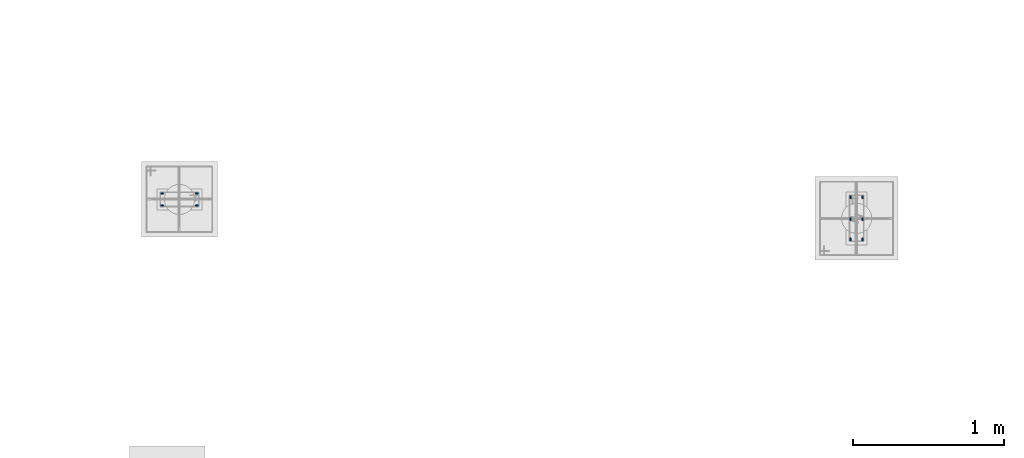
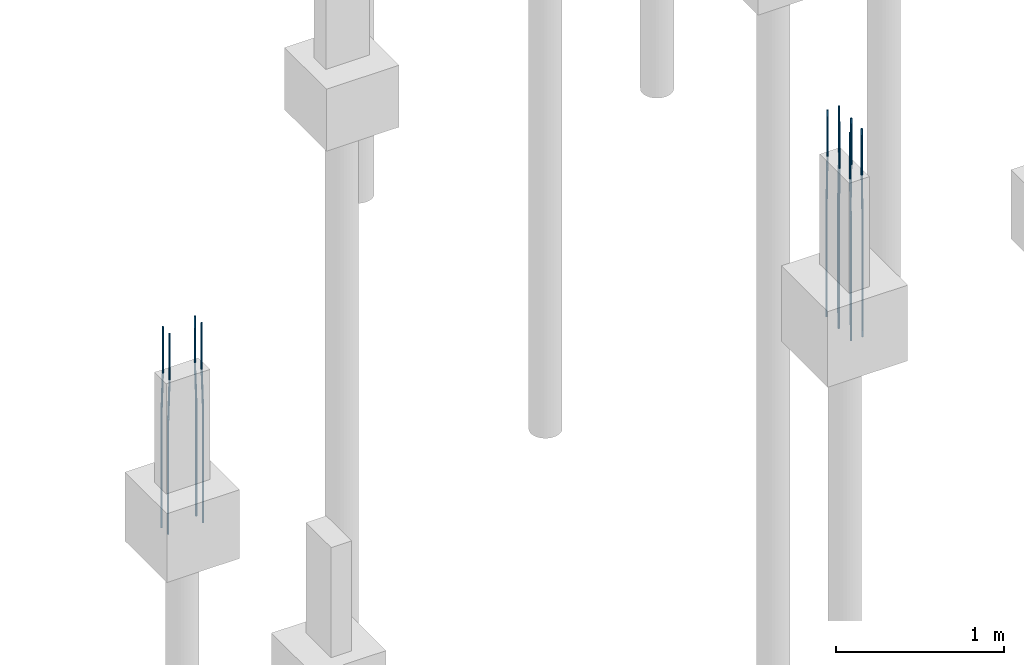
# One storey, part 31 of 119: 10 reinforcing bars.
"""IFC4 building model written with IfcOpenShell, lengths in centimetres."""

from ifc_helpers import new_model, entity, si_unit, derived_unit, frame, origin_with_axes, place, context, project, spatial, element, save


model = new_model("IFC4")

# Units and contexts
model_context = context("Model", 3, precision=1e-05, world=origin_with_axes(), identifier="Body")
ifc_project = project(units=[si_unit("LENGTHUNIT", "METRE", prefix="CENTI"), si_unit("VOLUMEUNIT", "CUBIC_METRE"), si_unit("AREAUNIT", "SQUARE_METRE"), si_unit("POWERUNIT", "WATT"), si_unit("LUMINOUSFLUXUNIT", "LUMEN"), si_unit("ELECTRICCURRENTUNIT", "AMPERE"), si_unit("PRESSUREUNIT", "PASCAL", prefix="KILO"), si_unit("MASSUNIT", "GRAM", prefix="KILO"), si_unit("PLANEANGLEUNIT", "RADIAN"), derived_unit("VOLUMETRICFLOWRATEUNIT", [(si_unit("LENGTHUNIT", "METRE"), 3), (si_unit("TIMEUNIT", "SECOND"), -1)])], contexts=[model_context])

# Site, building, storey
site_placement = place(None, frame((-4000.0, 0.0, 0.0), z_axis=(0.0, 0.0, 1.0), x_axis=(1.0, 0.0, 0.0)))
site = spatial("IfcSite", under=ifc_project, at=site_placement, Name="PADRÃO")
building_placement = place(site_placement, frame((0.0, 0.0, -14.0)))
building = spatial("IfcBuilding", under=site, at=building_placement, Name="CRECHE PRÉ-ESCOLA TIPO 2")
storey_placement = place(building_placement, origin_with_axes())
storey = spatial("IfcBuildingStorey", under=building, at=storey_placement, Name="FUNDAÇÃO", CompositionType="ELEMENT", Elevation=-14.0)

# Reinforcing bars
reinforcing_bar_1_placement = place(storey_placement, frame((2543.0, 2582.52, 33.3573001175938), z_axis=(0.0, 0.0, 1.0), x_axis=(1.0, 0.0, 0.0)))
element("IfcReinforcingBar", 1, at=reinforcing_bar_1_placement, inside=storey, Name="P72 - Longitudinal", BarLength=0.0, CrossSectionArea=7.853981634e-05, NominalDiameter=1.0, PredefinedType="MAIN", context=model_context, shape_type="AdvancedSweptSolid", body=[
    entity("IfcSweptDiskSolid", entity("IfcCompositeCurve", [entity("IfcCompositeCurveSegment", "CONTINUOUS", True, entity("IfcPolyline", [entity("IfcCartesianPoint", [0.5, 0.0, -145.357300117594]), entity("IfcCartesianPoint", [0.5, 0.0, -63.3573001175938])])), entity("IfcCompositeCurveSegment", "CONTINUOUS", True, entity("IfcPolyline", [entity("IfcCartesianPoint", [0.5, 0.0, -63.3573001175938]), entity("IfcCartesianPoint", [-0.5, 0.0, -33.3573001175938])])), entity("IfcCompositeCurveSegment", "CONTINUOUS", True, entity("IfcPolyline", [entity("IfcCartesianPoint", [-0.5, 0.0, -33.3573001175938]), entity("IfcCartesianPoint", [-0.5, 0.0, 0.0])]))], False), 0.5),
])
for number, where, z_axis, x_axis, name in (
    (2, (2520.0, 2574.52, 33.3573001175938), (0.0, 0.0, 1.0), (1.0, 0.0, 0.0), "P72 - Longitudinal"),
    (3, (2520.0, 2582.52, 33.3573001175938), (0.0, 0.0, 1.0), (1.0, 0.0, 0.0), "P72 - Longitudinal"),
):
    element("IfcReinforcingBar", number, at=place(storey_placement, frame(where, z_axis=z_axis, x_axis=x_axis)), inside=storey, Name=name, BarLength=0.0, CrossSectionArea=7.853981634e-05, NominalDiameter=1.0, PredefinedType="MAIN", context=model_context, shape_type="AdvancedSweptSolid", body=[
        entity("IfcSweptDiskSolid", entity("IfcCompositeCurve", [entity("IfcCompositeCurveSegment", "CONTINUOUS", True, entity("IfcPolyline", [entity("IfcCartesianPoint", [-0.5, 0.0, -145.357300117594]), entity("IfcCartesianPoint", [-0.5, 0.0, -63.3573001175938])])), entity("IfcCompositeCurveSegment", "CONTINUOUS", True, entity("IfcPolyline", [entity("IfcCartesianPoint", [-0.5, 0.0, -63.3573001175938]), entity("IfcCartesianPoint", [0.5, 0.0, -33.3573001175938])])), entity("IfcCompositeCurveSegment", "CONTINUOUS", True, entity("IfcPolyline", [entity("IfcCartesianPoint", [0.5, 0.0, -33.3573001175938]), entity("IfcCartesianPoint", [0.5, 0.0, 0.0])]))], False), 0.5),
    ])
reinforcing_bar_2_placement = place(storey_placement, frame((2543.0, 2574.52, 33.3573001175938), z_axis=(0.0, 0.0, 1.0), x_axis=(1.0, 0.0, 0.0)))
element("IfcReinforcingBar", 4, at=reinforcing_bar_2_placement, inside=storey, Name="P72 - Longitudinal", BarLength=0.0, CrossSectionArea=7.853981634e-05, NominalDiameter=1.0, PredefinedType="MAIN", context=model_context, shape_type="AdvancedSweptSolid", body=[
    entity("IfcSweptDiskSolid", entity("IfcCompositeCurve", [entity("IfcCompositeCurveSegment", "CONTINUOUS", True, entity("IfcPolyline", [entity("IfcCartesianPoint", [0.5, 0.0, -145.357300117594]), entity("IfcCartesianPoint", [0.5, 0.0, -63.3573001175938])])), entity("IfcCompositeCurveSegment", "CONTINUOUS", True, entity("IfcPolyline", [entity("IfcCartesianPoint", [0.5, 0.0, -63.3573001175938]), entity("IfcCartesianPoint", [-0.5, 0.0, -33.3573001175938])])), entity("IfcCompositeCurveSegment", "CONTINUOUS", True, entity("IfcPolyline", [entity("IfcCartesianPoint", [-0.5, 0.0, -33.3573001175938]), entity("IfcCartesianPoint", [-0.5, 0.0, 0.0])]))], False), 0.5),
])
reinforcing_bar_3_placement = place(storey_placement, frame((2975.5, 2552.02, 33.3573001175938), z_axis=(0.0, 0.0, 1.0), x_axis=(1.0, 0.0, 0.0)))
element("IfcReinforcingBar", 5, at=reinforcing_bar_3_placement, inside=storey, Name="P73 - Longitudinal", BarLength=0.0, CrossSectionArea=7.853981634e-05, NominalDiameter=1.0, PredefinedType="MAIN", context=model_context, shape_type="AdvancedSweptSolid", body=[
    entity("IfcSweptDiskSolid", entity("IfcCompositeCurve", [entity("IfcCompositeCurveSegment", "CONTINUOUS", True, entity("IfcPolyline", [entity("IfcCartesianPoint", [0.0, -0.5, -150.357300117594]), entity("IfcCartesianPoint", [0.0, -0.5, -68.3573001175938])])), entity("IfcCompositeCurveSegment", "CONTINUOUS", True, entity("IfcPolyline", [entity("IfcCartesianPoint", [0.0, -0.5, -68.3573001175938]), entity("IfcCartesianPoint", [0.0, 0.5, -33.3573001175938])])), entity("IfcCompositeCurveSegment", "CONTINUOUS", True, entity("IfcPolyline", [entity("IfcCartesianPoint", [0.0, 0.5, -33.3573001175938]), entity("IfcCartesianPoint", [0.0, 0.5, 0.0])]))], False), 0.5),
])
for number, where, z_axis, x_axis, name in (
    (6, (2983.5, 2565.52, 33.3573001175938), (0.0, 0.0, 1.0), (1.0, 0.0, 0.0), "P73 - Longitudinal"),
    (7, (2975.5, 2580.02, 33.3573001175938), (0.0, 0.0, 1.0), (1.0, 0.0, 0.0), "P73 - Longitudinal"),
    (8, (2983.5, 2580.02, 33.3573001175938), (0.0, 0.0, 1.0), (1.0, 0.0, 0.0), "P73 - Longitudinal"),
):
    element("IfcReinforcingBar", number, at=place(storey_placement, frame(where, z_axis=z_axis, x_axis=x_axis)), inside=storey, Name=name, BarLength=0.0, CrossSectionArea=7.853981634e-05, NominalDiameter=1.0, PredefinedType="MAIN", context=model_context, shape_type="AdvancedSweptSolid", body=[
        entity("IfcSweptDiskSolid", entity("IfcCompositeCurve", [entity("IfcCompositeCurveSegment", "CONTINUOUS", True, entity("IfcPolyline", [entity("IfcCartesianPoint", [0.0, 0.5, -150.357300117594]), entity("IfcCartesianPoint", [0.0, 0.5, -68.3573001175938])])), entity("IfcCompositeCurveSegment", "CONTINUOUS", True, entity("IfcPolyline", [entity("IfcCartesianPoint", [0.0, 0.5, -68.3573001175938]), entity("IfcCartesianPoint", [0.0, -0.5, -33.3573001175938])])), entity("IfcCompositeCurveSegment", "CONTINUOUS", True, entity("IfcPolyline", [entity("IfcCartesianPoint", [0.0, -0.5, -33.3573001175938]), entity("IfcCartesianPoint", [0.0, -0.5, 0.0])]))], False), 0.5),
    ])
reinforcing_bar_4_placement = place(storey_placement, frame((2983.5, 2552.02, 33.3573001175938), z_axis=(0.0, 0.0, 1.0), x_axis=(1.0, 0.0, 0.0)))
element("IfcReinforcingBar", 9, at=reinforcing_bar_4_placement, inside=storey, Name="P73 - Longitudinal", BarLength=0.0, CrossSectionArea=7.853981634e-05, NominalDiameter=1.0, PredefinedType="MAIN", context=model_context, shape_type="AdvancedSweptSolid", body=[
    entity("IfcSweptDiskSolid", entity("IfcCompositeCurve", [entity("IfcCompositeCurveSegment", "CONTINUOUS", True, entity("IfcPolyline", [entity("IfcCartesianPoint", [0.0, -0.5, -150.357300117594]), entity("IfcCartesianPoint", [0.0, -0.5, -68.3573001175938])])), entity("IfcCompositeCurveSegment", "CONTINUOUS", True, entity("IfcPolyline", [entity("IfcCartesianPoint", [0.0, -0.5, -68.3573001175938]), entity("IfcCartesianPoint", [0.0, 0.5, -33.3573001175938])])), entity("IfcCompositeCurveSegment", "CONTINUOUS", True, entity("IfcPolyline", [entity("IfcCartesianPoint", [0.0, 0.5, -33.3573001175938]), entity("IfcCartesianPoint", [0.0, 0.5, 0.0])]))], False), 0.5),
])
reinforcing_bar_5_placement = place(storey_placement, frame((2975.5, 2565.52, 33.3573001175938), z_axis=(0.0, 0.0, 1.0), x_axis=(1.0, 0.0, 0.0)))
element("IfcReinforcingBar", 10, at=reinforcing_bar_5_placement, inside=storey, Name="P73 - Longitudinal", BarLength=0.0, CrossSectionArea=7.853981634e-05, NominalDiameter=1.0, PredefinedType="MAIN", context=model_context, shape_type="AdvancedSweptSolid", body=[
    entity("IfcSweptDiskSolid", entity("IfcCompositeCurve", [entity("IfcCompositeCurveSegment", "CONTINUOUS", True, entity("IfcPolyline", [entity("IfcCartesianPoint", [0.0, 0.5, -150.357300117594]), entity("IfcCartesianPoint", [0.0, 0.5, -68.3573001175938])])), entity("IfcCompositeCurveSegment", "CONTINUOUS", True, entity("IfcPolyline", [entity("IfcCartesianPoint", [0.0, 0.5, -68.3573001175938]), entity("IfcCartesianPoint", [0.0, -0.5, -33.3573001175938])])), entity("IfcCompositeCurveSegment", "CONTINUOUS", True, entity("IfcPolyline", [entity("IfcCartesianPoint", [0.0, -0.5, -33.3573001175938]), entity("IfcCartesianPoint", [0.0, -0.5, 0.0])]))], False), 0.5),
])

save(model, "model.ifc")
